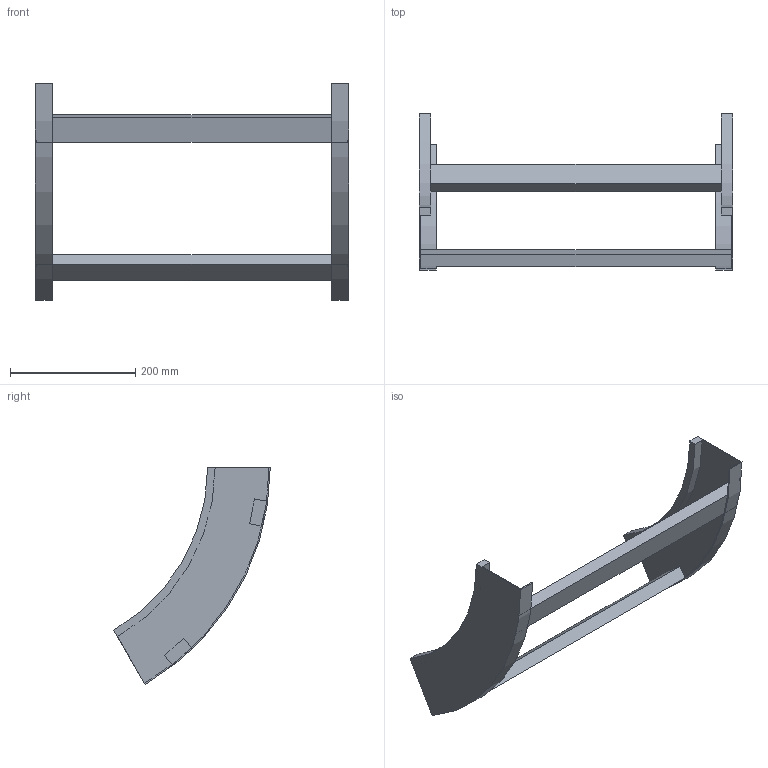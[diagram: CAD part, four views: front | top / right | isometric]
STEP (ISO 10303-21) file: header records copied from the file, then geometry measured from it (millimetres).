
FILE_DESCRIPTION (( 'STEP AP214' ), '1' );
FILE_NAME ('B2X40B3D500XX.step', '2025-03-20T10:12:59', ( '' ), ( '' ), 'SwSTEP 2.0', 'SolidWorks 2023', '' );
FILE_SCHEMA (( 'AUTOMOTIVE_DESIGN' ));
Length unit declared in the file: millimetre
Products named in the file (3): TRAVERSINO_500; B2_LONGH.SALITA_60°_H100_R300; B2X40B3D500XX
Assembly tree (4 placements, depth 2):
  B2X40B3D500XX
    B2_LONGH.SALITA_60°_H100_R300  x2
    TRAVERSINO_500  x2
Bounding box: 500 x 250 x 346.41 mm (x, y, z)
Volume: 1114960.7 mm3; surface area: 336871.3 mm2
Topology: 4 solids, 4 shells, 32 faces, 72 edges, 48 vertices
Faces by surface type: plane 24, cylinder 8
Entity records: 552 total; most frequent: DIRECTION 90, CARTESIAN_POINT 83, ORIENTED_EDGE 72, EDGE_CURVE 36, AXIS2_PLACEMENT_3D 31, VECTOR 28, LINE 28, VERTEX_POINT 24
